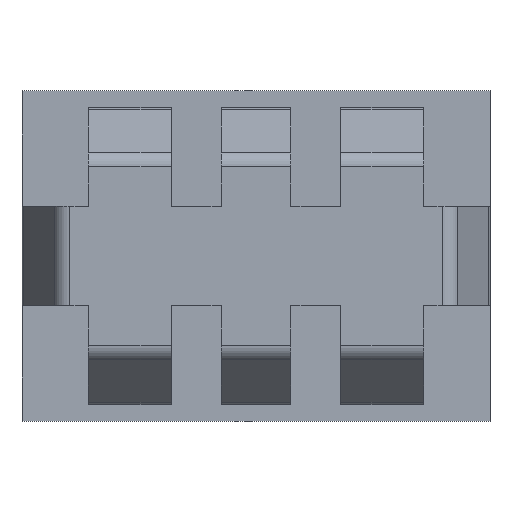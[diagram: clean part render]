
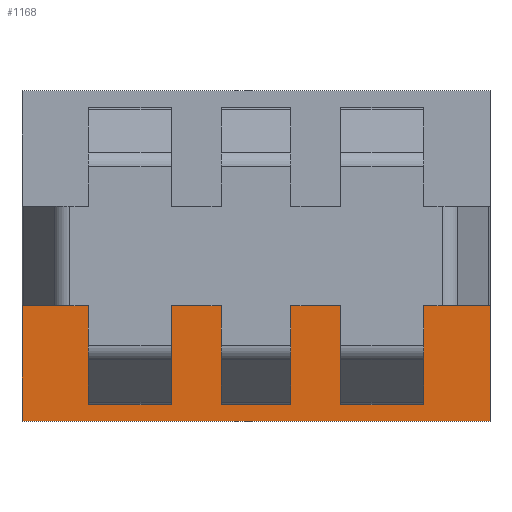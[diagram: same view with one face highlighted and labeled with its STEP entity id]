
A CAD part, left-side view. The second image highlights one B-rep face of the part: STEP entity #1168.
In plain terms, the highlighted planar face has unit normal (-1, 0, 0).
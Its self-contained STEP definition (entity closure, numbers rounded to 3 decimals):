
#2 = VERTEX_POINT ( 'NONE', #1294 ) ;
#16 = EDGE_CURVE ( 'NONE', #350, #59, #2472, .T. ) ;
#59 = VERTEX_POINT ( 'NONE', #1923 ) ;
#74 = ORIENTED_EDGE ( 'NONE', *, *, #1242, .F. ) ;
#80 = CARTESIAN_POINT ( 'NONE',  ( -15., 14.1, -1.5 ) ) ;
#117 = VECTOR ( 'NONE', #1309, 1000. ) ;
#168 = CARTESIAN_POINT ( 'NONE',  ( -15., 6., 8.698 ) ) ;
#187 = VECTOR ( 'NONE', #2743, 1000. ) ;
#235 = DIRECTION ( 'NONE',  ( 0., -1., 0. ) ) ;
#246 = ORIENTED_EDGE ( 'NONE', *, *, #1426, .F. ) ;
#253 = DIRECTION ( 'NONE',  ( 1., 0., 0. ) ) ;
#282 = ORIENTED_EDGE ( 'NONE', *, *, #665, .F. ) ;
#298 = EDGE_CURVE ( 'NONE', #2934, #518, #2275, .T. ) ;
#304 = ORIENTED_EDGE ( 'NONE', *, *, #1005, .F. ) ;
#350 = VERTEX_POINT ( 'NONE', #2610 ) ;
#356 = VECTOR ( 'NONE', #2045, 1000. ) ;
#379 = VERTEX_POINT ( 'NONE', #1918 ) ;
#399 = CARTESIAN_POINT ( 'NONE',  ( -15., 14.1, -4.475 ) ) ;
#420 = LINE ( 'NONE', #2708, #2030 ) ;
#438 = LINE ( 'NONE', #2081, #2963 ) ;
#448 = EDGE_CURVE ( 'NONE', #882, #2, #1672, .T. ) ;
#464 = ORIENTED_EDGE ( 'NONE', *, *, #1489, .F. ) ;
#471 = DIRECTION ( 'NONE',  ( 0., -1., 0. ) ) ;
#502 = EDGE_CURVE ( 'NONE', #1315, #864, #2910, .T. ) ;
#518 = VERTEX_POINT ( 'NONE', #1038 ) ;
#563 = DIRECTION ( 'NONE',  ( 0., -1., 0. ) ) ;
#579 = VECTOR ( 'NONE', #1192, 1000. ) ;
#613 = ORIENTED_EDGE ( 'NONE', *, *, #502, .F. ) ;
#665 = EDGE_CURVE ( 'NONE', #2209, #1315, #865, .T. ) ;
#694 = CARTESIAN_POINT ( 'NONE',  ( -15., 14.1, -4.475 ) ) ;
#749 = VERTEX_POINT ( 'NONE', #1916 ) ;
#822 = VECTOR ( 'NONE', #2100, 1000. ) ;
#850 = CARTESIAN_POINT ( 'NONE',  ( -15., 9.6, -1.5 ) ) ;
#864 = VERTEX_POINT ( 'NONE', #1726 ) ;
#865 = LINE ( 'NONE', #850, #2794 ) ;
#882 = VERTEX_POINT ( 'NONE', #1505 ) ;
#947 = LINE ( 'NONE', #1869, #1258 ) ;
#952 = ORIENTED_EDGE ( 'NONE', *, *, #1056, .F. ) ;
#1004 = DIRECTION ( 'NONE',  ( 0., 0., -1. ) ) ;
#1005 = EDGE_CURVE ( 'NONE', #350, #1188, #420, .T. ) ;
#1022 = CARTESIAN_POINT ( 'NONE',  ( -15., 9.6, -1.5 ) ) ;
#1038 = CARTESIAN_POINT ( 'NONE',  ( -15., 2., -4.475 ) ) ;
#1056 = EDGE_CURVE ( 'NONE', #1290, #882, #438, .T. ) ;
#1094 = ORIENTED_EDGE ( 'NONE', *, *, #298, .T. ) ;
#1097 = EDGE_CURVE ( 'NONE', #864, #59, #2820, .T. ) ;
#1138 = VECTOR ( 'NONE', #2685, 1000. ) ;
#1145 = CARTESIAN_POINT ( 'NONE',  ( -15., 14.1, -4.975 ) ) ;
#1168 = ADVANCED_FACE ( 'NONE', ( #1853 ), #2345, .F. ) ;
#1176 = CARTESIAN_POINT ( 'NONE',  ( -15., 9.6, 8.698 ) ) ;
#1188 = VERTEX_POINT ( 'NONE', #2540 ) ;
#1189 = LINE ( 'NONE', #2815, #1454 ) ;
#1192 = DIRECTION ( 'NONE',  ( 0., 0., 1. ) ) ;
#1242 = EDGE_CURVE ( 'NONE', #1188, #379, #2879, .T. ) ;
#1258 = VECTOR ( 'NONE', #2377, 1000. ) ;
#1290 = VERTEX_POINT ( 'NONE', #80 ) ;
#1294 = CARTESIAN_POINT ( 'NONE',  ( -15., 12.1, -4.475 ) ) ;
#1303 = VECTOR ( 'NONE', #1327, 1000. ) ;
#1309 = DIRECTION ( 'NONE',  ( 0., 0., -1. ) ) ;
#1315 = VERTEX_POINT ( 'NONE', #2932 ) ;
#1327 = DIRECTION ( 'NONE',  ( 0., -1., 0. ) ) ;
#1344 = LINE ( 'NONE', #2279, #3010 ) ;
#1411 = ORIENTED_EDGE ( 'NONE', *, *, #1097, .F. ) ;
#1419 = ORIENTED_EDGE ( 'NONE', *, *, #448, .F. ) ;
#1426 = EDGE_CURVE ( 'NONE', #2825, #1290, #1344, .T. ) ;
#1445 = CARTESIAN_POINT ( 'NONE',  ( -15., 12.1, 8.698 ) ) ;
#1454 = VECTOR ( 'NONE', #471, 1000. ) ;
#1467 = LINE ( 'NONE', #2182, #1740 ) ;
#1471 = ORIENTED_EDGE ( 'NONE', *, *, #2143, .T. ) ;
#1489 = EDGE_CURVE ( 'NONE', #379, #518, #1189, .T. ) ;
#1496 = ORIENTED_EDGE ( 'NONE', *, *, #16, .T. ) ;
#1505 = CARTESIAN_POINT ( 'NONE',  ( -15., 12.1, -1.5 ) ) ;
#1542 = ORIENTED_EDGE ( 'NONE', *, *, #1822, .T. ) ;
#1549 = ORIENTED_EDGE ( 'NONE', *, *, #1617, .F. ) ;
#1578 = LINE ( 'NONE', #1176, #187 ) ;
#1617 = EDGE_CURVE ( 'NONE', #2934, #749, #1467, .T. ) ;
#1672 = LINE ( 'NONE', #1445, #2550 ) ;
#1683 = DIRECTION ( 'NONE',  ( 0., 0., -1. ) ) ;
#1726 = CARTESIAN_POINT ( 'NONE',  ( -15., 8.1, -4.475 ) ) ;
#1740 = VECTOR ( 'NONE', #563, 1000. ) ;
#1772 = DIRECTION ( 'NONE',  ( 0., -1., 0. ) ) ;
#1822 = EDGE_CURVE ( 'NONE', #1950, #749, #2098, .T. ) ;
#1853 = FACE_OUTER_BOUND ( 'NONE', #2244, .T. ) ;
#1869 = CARTESIAN_POINT ( 'NONE',  ( -15., 14.1, -4.975 ) ) ;
#1916 = CARTESIAN_POINT ( 'NONE',  ( -15., 0., -1.5 ) ) ;
#1918 = CARTESIAN_POINT ( 'NONE',  ( -15., 4.5, -4.475 ) ) ;
#1923 = CARTESIAN_POINT ( 'NONE',  ( -15., 6., -4.475 ) ) ;
#1950 = VERTEX_POINT ( 'NONE', #2975 ) ;
#2013 = LINE ( 'NONE', #399, #1303 ) ;
#2030 = VECTOR ( 'NONE', #2036, 1000. ) ;
#2036 = DIRECTION ( 'NONE',  ( 0., -1., 0. ) ) ;
#2045 = DIRECTION ( 'NONE',  ( 0., 0., -1. ) ) ;
#2081 = CARTESIAN_POINT ( 'NONE',  ( -15., 14.1, -1.5 ) ) ;
#2098 = LINE ( 'NONE', #2359, #579 ) ;
#2100 = DIRECTION ( 'NONE',  ( 0., -1., 0. ) ) ;
#2143 = EDGE_CURVE ( 'NONE', #2825, #1950, #947, .T. ) ;
#2146 = DIRECTION ( 'NONE',  ( 0., 0., -1. ) ) ;
#2182 = CARTESIAN_POINT ( 'NONE',  ( -15., 0., -1.5 ) ) ;
#2209 = VERTEX_POINT ( 'NONE', #1022 ) ;
#2244 = EDGE_LOOP ( 'NONE', ( #1542, #1549, #1094, #464, #74, #304, #1496, #1411, #613, #282, #2985, #2964, #1419, #952, #246, #1471 ) ) ;
#2275 = LINE ( 'NONE', #2520, #356 ) ;
#2279 = CARTESIAN_POINT ( 'NONE',  ( -15., 14.1, -4.975 ) ) ;
#2345 = PLANE ( 'NONE',  #2822 ) ;
#2359 = CARTESIAN_POINT ( 'NONE',  ( -15., 0., -4.975 ) ) ;
#2377 = DIRECTION ( 'NONE',  ( 0., -1., 0. ) ) ;
#2413 = CARTESIAN_POINT ( 'NONE',  ( -15., 8.1, 8.698 ) ) ;
#2424 = EDGE_CURVE ( 'NONE', #2209, #2649, #1578, .T. ) ;
#2472 = LINE ( 'NONE', #168, #117 ) ;
#2520 = CARTESIAN_POINT ( 'NONE',  ( -15., 2., 8.698 ) ) ;
#2540 = CARTESIAN_POINT ( 'NONE',  ( -15., 4.5, -1.5 ) ) ;
#2550 = VECTOR ( 'NONE', #1683, 1000. ) ;
#2572 = VECTOR ( 'NONE', #1004, 1000. ) ;
#2595 = CARTESIAN_POINT ( 'NONE',  ( -15., 2., -1.5 ) ) ;
#2604 = CARTESIAN_POINT ( 'NONE',  ( -15., 14.1, -4.975 ) ) ;
#2610 = CARTESIAN_POINT ( 'NONE',  ( -15., 6., -1.5 ) ) ;
#2649 = VERTEX_POINT ( 'NONE', #2929 ) ;
#2661 = CARTESIAN_POINT ( 'NONE',  ( -15., 4.5, 8.698 ) ) ;
#2685 = DIRECTION ( 'NONE',  ( 0., 0., -1. ) ) ;
#2708 = CARTESIAN_POINT ( 'NONE',  ( -15., 4.5, -1.5 ) ) ;
#2719 = EDGE_CURVE ( 'NONE', #2, #2649, #2013, .T. ) ;
#2743 = DIRECTION ( 'NONE',  ( 0., 0., -1. ) ) ;
#2794 = VECTOR ( 'NONE', #1772, 1000. ) ;
#2815 = CARTESIAN_POINT ( 'NONE',  ( -15., 14.1, -4.475 ) ) ;
#2820 = LINE ( 'NONE', #694, #822 ) ;
#2822 = AXIS2_PLACEMENT_3D ( 'NONE', #2604, #253, #2146 ) ;
#2825 = VERTEX_POINT ( 'NONE', #1145 ) ;
#2879 = LINE ( 'NONE', #2661, #2572 ) ;
#2910 = LINE ( 'NONE', #2413, #1138 ) ;
#2920 = DIRECTION ( 'NONE',  ( 0., 0., 1. ) ) ;
#2929 = CARTESIAN_POINT ( 'NONE',  ( -15., 9.6, -4.475 ) ) ;
#2932 = CARTESIAN_POINT ( 'NONE',  ( -15., 8.1, -1.5 ) ) ;
#2934 = VERTEX_POINT ( 'NONE', #2595 ) ;
#2963 = VECTOR ( 'NONE', #235, 1000. ) ;
#2964 = ORIENTED_EDGE ( 'NONE', *, *, #2719, .F. ) ;
#2975 = CARTESIAN_POINT ( 'NONE',  ( -15., 0., -4.975 ) ) ;
#2985 = ORIENTED_EDGE ( 'NONE', *, *, #2424, .T. ) ;
#3010 = VECTOR ( 'NONE', #2920, 1000. ) ;
